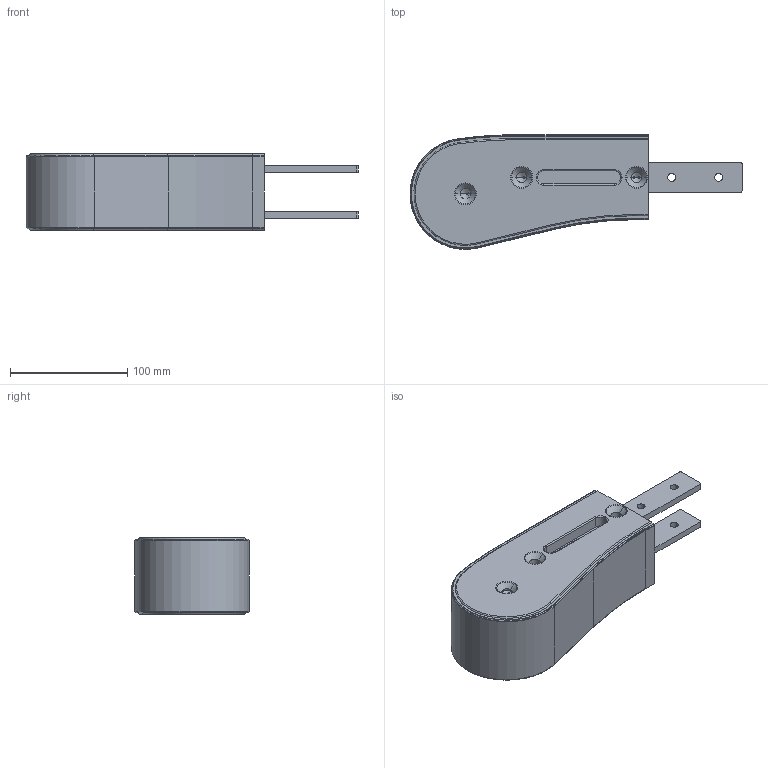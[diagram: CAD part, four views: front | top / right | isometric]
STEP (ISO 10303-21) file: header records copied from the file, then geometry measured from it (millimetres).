
FILE_DESCRIPTION (( 'STEP AP214' ), '1' );
FILE_NAME ('FSIE 200.step', '2017-04-07T11:09:43', ( '' ), ( '' ), 'SwSTEP 2.0', 'SolidWorks 2016', '' );
FILE_SCHEMA (( 'AUTOMOTIVE_DESIGN' ));
Length unit declared in the file: millimetre
Products named in the file (1): FSIE 200
Bounding box: 283.31 x 97.71 x 65 mm (x, y, z)
Volume: 1055796.7 mm3; surface area: 80593.9 mm2
Topology: 1 solids, 1 shells, 152 faces, 363 edges, 211 vertices
Faces by surface type: cylinder 55, torus 36, cone 31, plane 30
Entity records: 5884 total; most frequent: DIRECTION 850, CARTESIAN_POINT 715, ORIENTED_EDGE 702, EDGE_CURVE 351, AXIS2_PLACEMENT_3D 346, VERTEX_POINT 211, CIRCLE 193, EDGE_LOOP 170
